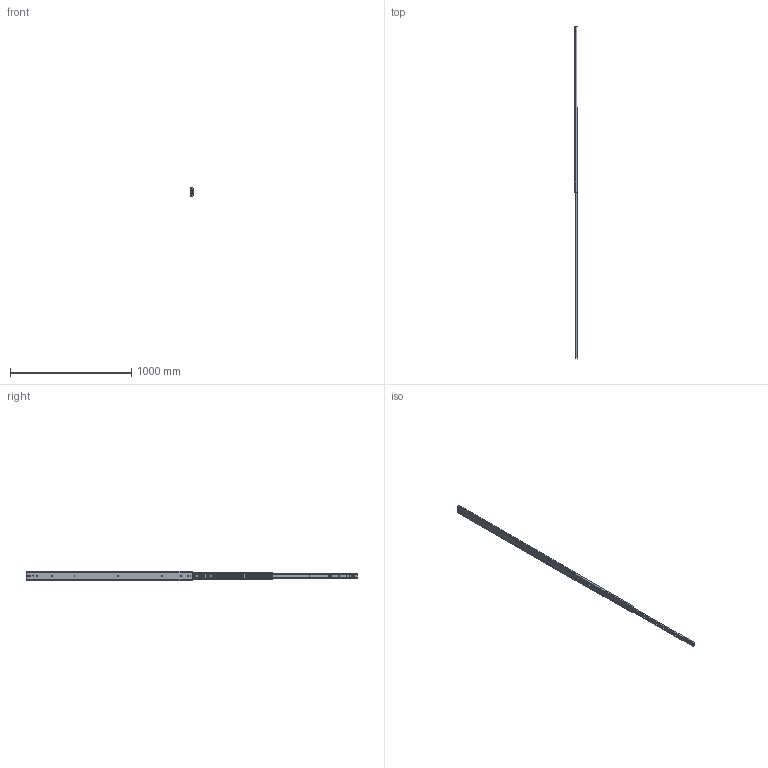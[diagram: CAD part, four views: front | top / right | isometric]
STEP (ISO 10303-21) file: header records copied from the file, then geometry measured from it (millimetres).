
FILE_DESCRIPTION(/* description */ ('Unknown'),/* implementation_level */ '2;1');
FILE_NAME(/* name */ '76J01-54 open',/* time_stamp */ '2024-07-30T10:57:22+08:00',/* author */ ('Unknown'),/* organization */ ('Unknown'),/* preprocessor_version */ 'ST-DEVELOPER v18.104',/* originating_system */ 'Solid Edge',/* authorisation */ 'Unknown');
FILE_SCHEMA (('AUTOMOTIVE_DESIGN {1 0 10303 214 3 1 1}'));
Length unit declared in the file: millimetre
Products named in the file (4): 76J01-54 open; 76J01 54 inch 內_0; 76J01 54 吋中_; 76J01 54 嬪
Assembly tree (3 placements, depth 2):
  76J01-54 open
    76J01 54 inch 內_0
    76J01 54 吋中_
    76J01 54 嬪
Bounding box: 19.3 x 2742.5 x 76.76 mm (x, y, z)
Volume: 1083733.5 mm3; surface area: 673792.2 mm2
Topology: 3 solids, 3 shells, 196 faces, 606 edges, 410 vertices
Faces by surface type: plane 104, cylinder 92
Full cylindrical faces by diameter (mm): 5.2 x16, 7.1 x2
Entity records: 7179 total; most frequent: CARTESIAN_POINT 1168, DIRECTION 1152, ORIENTED_EDGE 1140, EDGE_CURVE 570, VERTEX_POINT 392, LINE 384, VECTOR 384, AXIS2_PLACEMENT_3D 384
